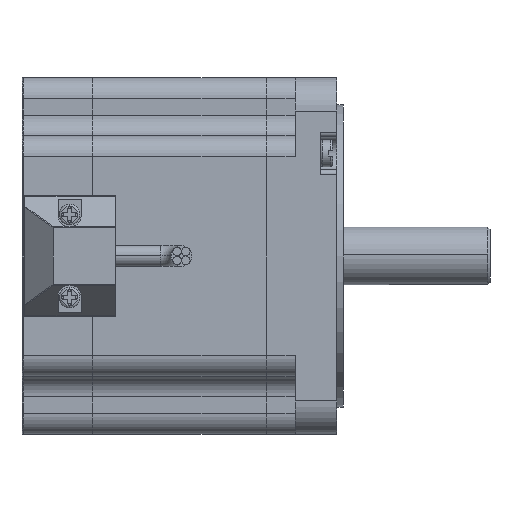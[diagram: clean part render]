
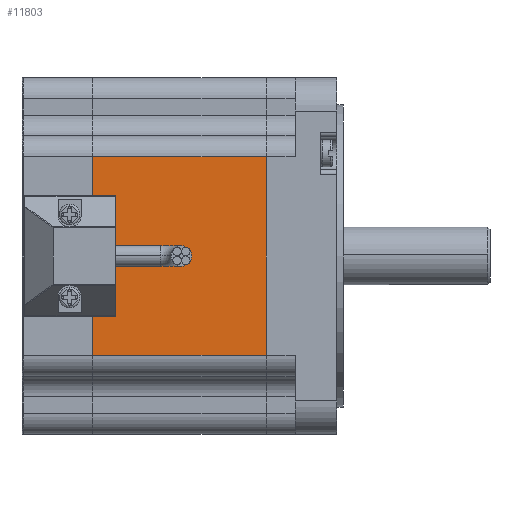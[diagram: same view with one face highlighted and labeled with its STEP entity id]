
A CAD part, left-side view. The second image highlights one B-rep face of the part: STEP entity #11803.
In plain terms, the highlighted planar face has unit normal (-1, 0, 0).
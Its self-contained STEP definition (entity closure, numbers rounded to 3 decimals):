
#132 = VECTOR ( 'NONE', #12313, 1000. ) ;
#523 = VERTEX_POINT ( 'NONE', #4865 ) ;
#655 = ORIENTED_EDGE ( 'NONE', *, *, #7116, .F. ) ;
#1097 = LINE ( 'NONE', #11611, #6513 ) ;
#1476 = VECTOR ( 'NONE', #4548, 1000. ) ;
#1562 = CARTESIAN_POINT ( 'NONE',  ( -43., 42., -24. ) ) ;
#2671 = EDGE_CURVE ( 'NONE', #13621, #9493, #10887, .T. ) ;
#2940 = DIRECTION ( 'NONE',  ( 0., 0., 1. ) ) ;
#3360 = PLANE ( 'NONE',  #5846 ) ;
#3474 = CARTESIAN_POINT ( 'NONE',  ( -43., 42., 24. ) ) ;
#3887 = EDGE_LOOP ( 'NONE', ( #9008, #5807, #655, #13685 ) ) ;
#4323 = VECTOR ( 'NONE', #11385, 1000. ) ;
#4548 = DIRECTION ( 'NONE',  ( 0., -1., 0. ) ) ;
#4637 = EDGE_CURVE ( 'NONE', #9493, #523, #1097, .T. ) ;
#4865 = CARTESIAN_POINT ( 'NONE',  ( -43., 0., 24. ) ) ;
#5527 = DIRECTION ( 'NONE',  ( 0., 0., -1. ) ) ;
#5638 = VERTEX_POINT ( 'NONE', #3474 ) ;
#5807 = ORIENTED_EDGE ( 'NONE', *, *, #10681, .F. ) ;
#5846 = AXIS2_PLACEMENT_3D ( 'NONE', #10916, #11984, #5527 ) ;
#5971 = FACE_OUTER_BOUND ( 'NONE', #3887, .T. ) ;
#6513 = VECTOR ( 'NONE', #2940, 1000. ) ;
#6691 = CARTESIAN_POINT ( 'NONE',  ( -43., 42., -24. ) ) ;
#7116 = EDGE_CURVE ( 'NONE', #13621, #5638, #12951, .T. ) ;
#9008 = ORIENTED_EDGE ( 'NONE', *, *, #4637, .T. ) ;
#9436 = CARTESIAN_POINT ( 'NONE',  ( -43., 0., -24. ) ) ;
#9493 = VERTEX_POINT ( 'NONE', #9436 ) ;
#10303 = CARTESIAN_POINT ( 'NONE',  ( -43., 42., 43. ) ) ;
#10681 = EDGE_CURVE ( 'NONE', #5638, #523, #12926, .T. ) ;
#10887 = LINE ( 'NONE', #1562, #132 ) ;
#10916 = CARTESIAN_POINT ( 'NONE',  ( -43., 42., 43. ) ) ;
#11385 = DIRECTION ( 'NONE',  ( 0., 0., 1. ) ) ;
#11611 = CARTESIAN_POINT ( 'NONE',  ( -43., 0., 43. ) ) ;
#11803 = ADVANCED_FACE ( 'NONE', ( #5971 ), #3360, .F. ) ;
#11984 = DIRECTION ( 'NONE',  ( 1., 0., 0. ) ) ;
#12313 = DIRECTION ( 'NONE',  ( 0., -1., 0. ) ) ;
#12926 = LINE ( 'NONE', #13212, #1476 ) ;
#12951 = LINE ( 'NONE', #10303, #4323 ) ;
#13212 = CARTESIAN_POINT ( 'NONE',  ( -43., 42., 24. ) ) ;
#13621 = VERTEX_POINT ( 'NONE', #6691 ) ;
#13685 = ORIENTED_EDGE ( 'NONE', *, *, #2671, .T. ) ;
